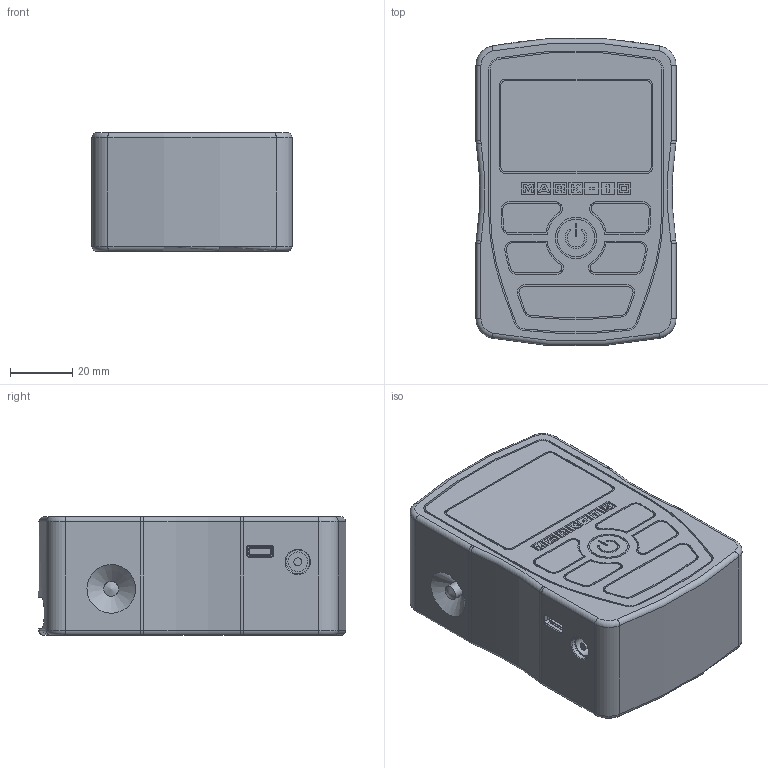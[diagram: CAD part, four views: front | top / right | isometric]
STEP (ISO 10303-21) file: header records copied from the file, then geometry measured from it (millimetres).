
FILE_DESCRIPTION((''),'2;1');
FILE_NAME('F:\CAD files\Itr\3D MARKETING MODELS\INDICATORS\M3I\M3I.stp','2017-04-05T12:02:52',('mlampen'),(''),'Autodesk Inventor 2010','Autodesk Inventor 2010','');
FILE_SCHEMA(('AUTOMOTIVE_DESIGN { 1 0 10303 214 1 1 1 1 }'));
Length unit declared in the file: inch
Products named in the file (1): Part2
Bounding box: 64.26 x 98.63 x 38.1 mm (x, y, z)
Volume: 217860.2 mm3; surface area: 29630.9 mm2
Topology: 1 solids, 1 shells, 473 faces, 1190 edges, 774 vertices
Faces by surface type: plane 259, cylinder 146, bspline 31, torus 24, cone 13
Full cylindrical faces by diameter (mm): 2.5 x1, 3.505 x4, 4 x2, 4.763 x2, 5.486 x2, 6.299 x1, 6.35 x2, 7.62 x1, 12.065 x1, 13.335 x1
Entity records: 14119 total; most frequent: CARTESIAN_POINT 2723, DIRECTION 2392, ORIENTED_EDGE 2294, EDGE_CURVE 1147, AXIS2_PLACEMENT_3D 812, VECTOR 768, LINE 768, VERTEX_POINT 759
